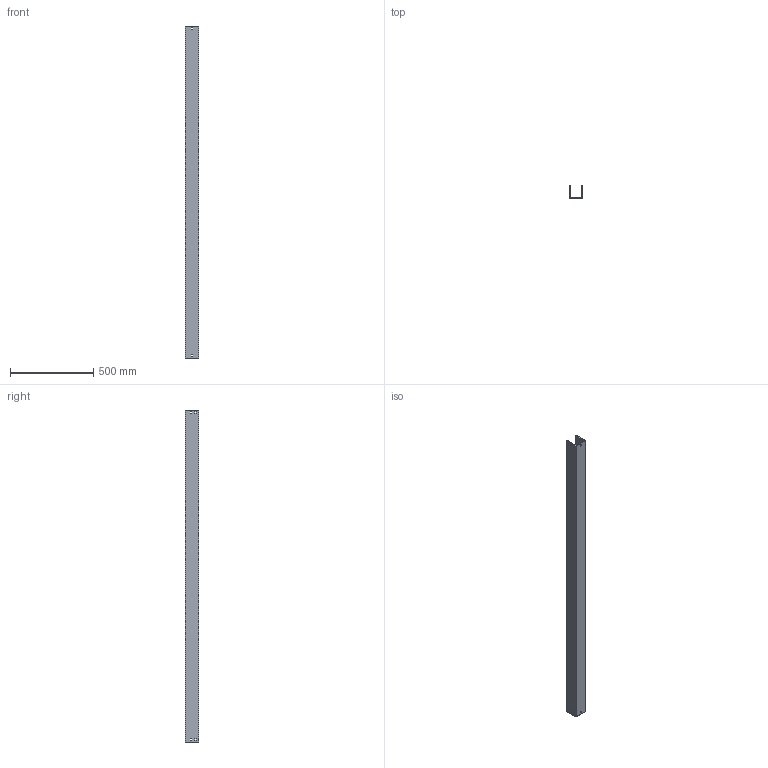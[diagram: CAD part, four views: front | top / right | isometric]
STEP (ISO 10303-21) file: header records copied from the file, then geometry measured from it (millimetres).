
FILE_DESCRIPTION (( 'STEP AP214' ), '1' );
FILE_NAME ('03F2C075.step', '2025-02-21T13:31:38', ( '' ), ( '' ), 'SwSTEP 2.0', 'SolidWorks 2023', '' );
FILE_SCHEMA (( 'AUTOMOTIVE_DESIGN' ));
Length unit declared in the file: millimetre
Products named in the file (1): 03F2C075
Bounding box: 79 x 79 x 2000 mm (x, y, z)
Volume: 1607630.5 mm3; surface area: 935425 mm2
Topology: 1 solids, 1 shells, 50 faces, 144 edges, 96 vertices
Faces by surface type: plane 50
Entity records: 1671 total; most frequent: CARTESIAN_POINT 291, ORIENTED_EDGE 288, DIRECTION 246, VECTOR 144, EDGE_CURVE 144, LINE 144, VERTEX_POINT 96, EDGE_LOOP 70
